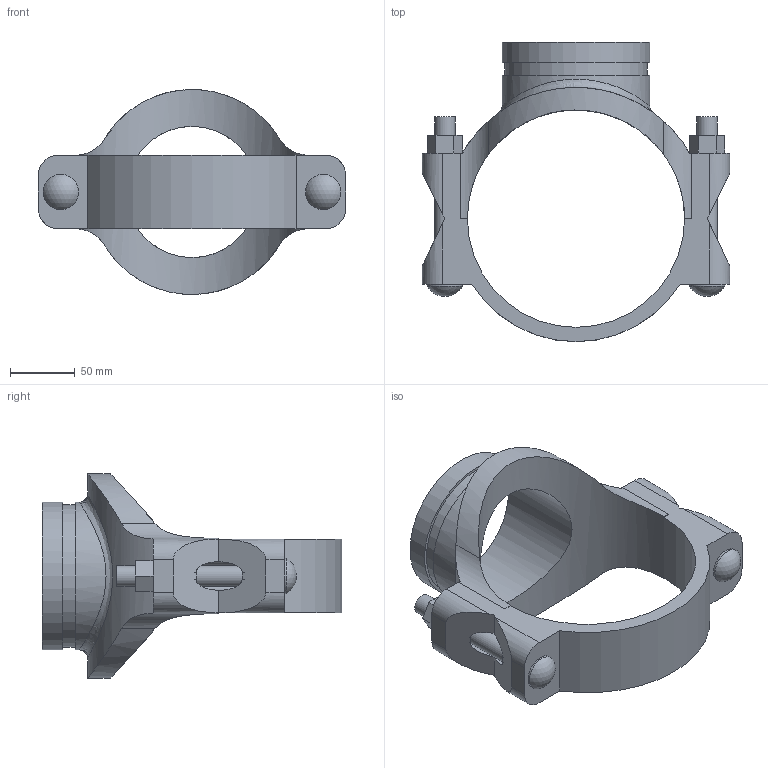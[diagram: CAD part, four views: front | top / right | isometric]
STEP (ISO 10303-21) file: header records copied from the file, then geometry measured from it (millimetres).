
FILE_DESCRIPTION(/* description */ ('VIC SS MECHANICAL T BRANCH OUTLET STYLE 422 (OGS)','CAx-IF Rec.Pracs.---Representation and Presentation of Product Manufacturing Information (PMI)---4.0---2014-10-13'),/* implementation_level */ '2;1');
FILE_NAME(/* name */ 'C:\Files for Export\422\STEP\Victaulic_SS-OGS_Mech-Tee Out_Style 422 (OGS)\Victaulic_SS-OGS_Mech-Tee Out_Style 422 (OGS)_06.0x04.0 (150x100).stp',/* time_stamp */ '2023-03-28T14:00:00+02:00',/* author */ ('jheald'),/* organization */ ('Victaulic'),/* preprocessor_version */ 'ST-DEVELOPER v18.1',/* originating_system */ 'Autodesk Inventor 2020',/* authorisation */ '');
FILE_SCHEMA (('AP242_MANAGED_MODEL_BASED_3D_ENGINEERING_MIM_LF { 1 0 10303 442 1 1 4 }'));
Length unit declared in the file: inch
Products named in the file (1): 422-06.0x04.0
Bounding box: 238.25 x 231.9 x 158.73 mm (x, y, z)
Volume: 840789.2 mm3; surface area: 166442.4 mm2
Topology: 1 solids, 1 shells, 83 faces, 235 edges, 161 vertices
Faces by surface type: plane 47, cylinder 33, sphere 2, bspline 1
Full cylindrical faces by diameter (mm): 15.875 x4, 27.381 x2, 101.6 x1, 110.084 x1, 114.3 x2, 168.275 x1
Entity records: 3451 total; most frequent: CARTESIAN_POINT 1017, DIRECTION 487, ORIENTED_EDGE 470, EDGE_CURVE 235, AXIS2_PLACEMENT_3D 175, VERTEX_POINT 161, LINE 137, VECTOR 137
